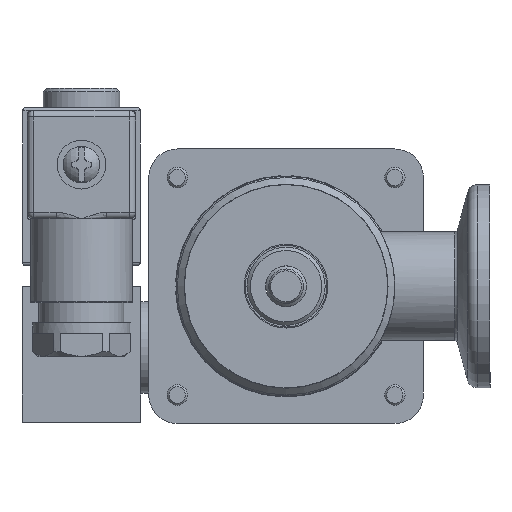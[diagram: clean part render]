
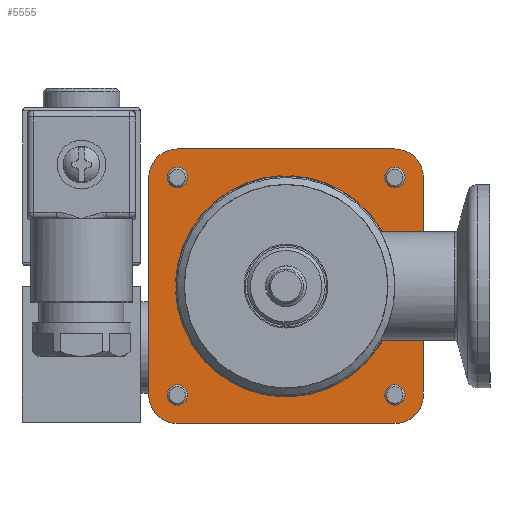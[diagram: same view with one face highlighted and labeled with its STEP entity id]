
A CAD part, front view. The second image highlights one B-rep face of the part: STEP entity #5555.
In plain terms, the highlighted planar face has unit normal (0, -1, 0) as drawn and (0, 1, 0) by its records, which use the part's own axes.
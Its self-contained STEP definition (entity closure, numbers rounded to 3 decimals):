
#2692=LINE('',#22524,#3665);
#2696=LINE('',#22533,#3669);
#2700=LINE('',#22545,#3673);
#2704=LINE('',#22554,#3677);
#2708=LINE('',#22566,#3681);
#2712=LINE('',#22575,#3685);
#2716=LINE('',#22587,#3689);
#2719=LINE('',#22603,#3692);
#2723=LINE('',#22613,#3696);
#2726=LINE('',#22621,#3699);
#2729=LINE('',#22629,#3702);
#2731=LINE('',#22634,#3704);
#3665=VECTOR('',#17649,1.);
#3669=VECTOR('',#17655,1.);
#3673=VECTOR('',#17667,1.);
#3677=VECTOR('',#17673,1.);
#3681=VECTOR('',#17685,1.);
#3685=VECTOR('',#17691,1.);
#3689=VECTOR('',#17703,1.);
#3692=VECTOR('',#17726,1.);
#3696=VECTOR('',#17736,1.);
#3699=VECTOR('',#17745,1.);
#3702=VECTOR('',#17754,1.);
#3704=VECTOR('',#17762,1.);
#4877=PLANE('',#14525);
#5555=ADVANCED_FACE('',(#6212,#6213,#6214,#6215,#6216,#6217),#4877,.T.);
#6212=FACE_BOUND('',#7180,.T.);
#6213=FACE_BOUND('',#7181,.T.);
#6214=FACE_BOUND('',#7182,.T.);
#6215=FACE_BOUND('',#7183,.T.);
#6216=FACE_BOUND('',#7184,.T.);
#6217=FACE_BOUND('',#7185,.T.);
#7180=EDGE_LOOP('',(#10224));
#7181=EDGE_LOOP('',(#10225));
#7182=EDGE_LOOP('',(#10226));
#7183=EDGE_LOOP('',(#10227));
#7184=EDGE_LOOP('',(#10228,#10229,#10230,#10231,#10232,#10233,#10234,#10235));
#7185=EDGE_LOOP('',(#10236,#10237,#10238,#10239,#10240,#10241,#10242,#10243,
#10244,#10245,#10246,#10247,#10248,#10249,#10250,#10251));
#10224=ORIENTED_EDGE('',*,*,#12924,.F.);
#10225=ORIENTED_EDGE('',*,*,#12925,.F.);
#10226=ORIENTED_EDGE('',*,*,#12926,.F.);
#10227=ORIENTED_EDGE('',*,*,#12927,.F.);
#10228=ORIENTED_EDGE('',*,*,#12907,.T.);
#10229=ORIENTED_EDGE('',*,*,#12910,.T.);
#10230=ORIENTED_EDGE('',*,*,#12912,.T.);
#10231=ORIENTED_EDGE('',*,*,#12914,.T.);
#10232=ORIENTED_EDGE('',*,*,#12916,.T.);
#10233=ORIENTED_EDGE('',*,*,#12918,.T.);
#10234=ORIENTED_EDGE('',*,*,#12920,.T.);
#10235=ORIENTED_EDGE('',*,*,#12921,.T.);
#10236=ORIENTED_EDGE('',*,*,#12863,.T.);
#10237=ORIENTED_EDGE('',*,*,#12866,.T.);
#10238=ORIENTED_EDGE('',*,*,#12905,.T.);
#10239=ORIENTED_EDGE('',*,*,#12870,.T.);
#10240=ORIENTED_EDGE('',*,*,#12873,.T.);
#10241=ORIENTED_EDGE('',*,*,#12876,.T.);
#10242=ORIENTED_EDGE('',*,*,#12903,.T.);
#10243=ORIENTED_EDGE('',*,*,#12880,.T.);
#10244=ORIENTED_EDGE('',*,*,#12883,.T.);
#10245=ORIENTED_EDGE('',*,*,#12886,.T.);
#10246=ORIENTED_EDGE('',*,*,#12901,.T.);
#10247=ORIENTED_EDGE('',*,*,#12890,.T.);
#10248=ORIENTED_EDGE('',*,*,#12893,.T.);
#10249=ORIENTED_EDGE('',*,*,#12896,.T.);
#10250=ORIENTED_EDGE('',*,*,#12899,.T.);
#10251=ORIENTED_EDGE('',*,*,#12923,.T.);
#11345=VERTEX_POINT('',#22512);
#11348=VERTEX_POINT('',#22517);
#11350=VERTEX_POINT('',#22523);
#11351=VERTEX_POINT('',#22527);
#11354=VERTEX_POINT('',#22532);
#11356=VERTEX_POINT('',#22538);
#11358=VERTEX_POINT('',#22544);
#11359=VERTEX_POINT('',#22548);
#11362=VERTEX_POINT('',#22553);
#11364=VERTEX_POINT('',#22559);
#11366=VERTEX_POINT('',#22565);
#11367=VERTEX_POINT('',#22569);
#11370=VERTEX_POINT('',#22574);
#11372=VERTEX_POINT('',#22580);
#11374=VERTEX_POINT('',#22586);
#11376=VERTEX_POINT('',#22592);
#11377=VERTEX_POINT('',#22602);
#11378=VERTEX_POINT('',#22604);
#11379=VERTEX_POINT('',#22608);
#11380=VERTEX_POINT('',#22612);
#11381=VERTEX_POINT('',#22616);
#11382=VERTEX_POINT('',#22620);
#11383=VERTEX_POINT('',#22624);
#11384=VERTEX_POINT('',#22628);
#11385=VERTEX_POINT('',#22637);
#11386=VERTEX_POINT('',#22639);
#11387=VERTEX_POINT('',#22641);
#11388=VERTEX_POINT('',#22643);
#12863=EDGE_CURVE('',#11345,#11348,#13381,.T.);
#12866=EDGE_CURVE('',#11348,#11350,#2692,.T.);
#12870=EDGE_CURVE('',#11351,#11354,#2696,.T.);
#12873=EDGE_CURVE('',#11354,#11356,#13383,.T.);
#12876=EDGE_CURVE('',#11356,#11358,#2700,.T.);
#12880=EDGE_CURVE('',#11359,#11362,#2704,.T.);
#12883=EDGE_CURVE('',#11362,#11364,#13385,.T.);
#12886=EDGE_CURVE('',#11364,#11366,#2708,.T.);
#12890=EDGE_CURVE('',#11367,#11370,#2712,.T.);
#12893=EDGE_CURVE('',#11370,#11372,#13387,.T.);
#12896=EDGE_CURVE('',#11372,#11374,#2716,.T.);
#12899=EDGE_CURVE('',#11374,#11376,#13389,.T.);
#12901=EDGE_CURVE('',#11366,#11367,#13391,.T.);
#12903=EDGE_CURVE('',#11358,#11359,#13393,.T.);
#12905=EDGE_CURVE('',#11350,#11351,#13395,.T.);
#12907=EDGE_CURVE('',#11378,#11377,#2719,.T.);
#12910=EDGE_CURVE('',#11377,#11379,#13396,.T.);
#12912=EDGE_CURVE('',#11379,#11380,#2723,.T.);
#12914=EDGE_CURVE('',#11380,#11381,#13397,.T.);
#12916=EDGE_CURVE('',#11381,#11382,#2726,.T.);
#12918=EDGE_CURVE('',#11382,#11383,#13398,.T.);
#12920=EDGE_CURVE('',#11383,#11384,#2729,.T.);
#12921=EDGE_CURVE('',#11384,#11378,#13399,.T.);
#12923=EDGE_CURVE('',#11376,#11345,#2731,.T.);
#12924=EDGE_CURVE('',#11385,#11385,#13400,.T.);
#12925=EDGE_CURVE('',#11386,#11386,#13401,.T.);
#12926=EDGE_CURVE('',#11387,#11387,#13402,.T.);
#12927=EDGE_CURVE('',#11388,#11388,#13403,.T.);
#13381=CIRCLE('',#14481,16.1);
#13383=CIRCLE('',#14486,16.1);
#13385=CIRCLE('',#14491,16.1);
#13387=CIRCLE('',#14496,16.1);
#13389=CIRCLE('',#14500,16.275);
#13391=CIRCLE('',#14502,16.275);
#13393=CIRCLE('',#14504,16.275);
#13395=CIRCLE('',#14506,16.275);
#13396=CIRCLE('',#14509,4.2);
#13397=CIRCLE('',#14512,4.2);
#13398=CIRCLE('',#14515,4.2);
#13399=CIRCLE('',#14518,4.2);
#13400=CIRCLE('',#14521,1.5);
#13401=CIRCLE('',#14522,1.5);
#13402=CIRCLE('',#14523,1.5);
#13403=CIRCLE('',#14524,1.5);
#14481=AXIS2_PLACEMENT_3D('',#22518,#17643,#17644);
#14486=AXIS2_PLACEMENT_3D('',#22539,#17661,#17662);
#14491=AXIS2_PLACEMENT_3D('',#22560,#17679,#17680);
#14496=AXIS2_PLACEMENT_3D('',#22581,#17697,#17698);
#14500=AXIS2_PLACEMENT_3D('',#22593,#17709,#17710);
#14502=AXIS2_PLACEMENT_3D('',#22595,#17713,#17714);
#14504=AXIS2_PLACEMENT_3D('',#22597,#17717,#17718);
#14506=AXIS2_PLACEMENT_3D('',#22599,#17721,#17722);
#14509=AXIS2_PLACEMENT_3D('',#22609,#17731,#17732);
#14512=AXIS2_PLACEMENT_3D('',#22617,#17740,#17741);
#14515=AXIS2_PLACEMENT_3D('',#22625,#17749,#17750);
#14518=AXIS2_PLACEMENT_3D('',#22631,#17757,#17758);
#14521=AXIS2_PLACEMENT_3D('',#22636,#17765,#17766);
#14522=AXIS2_PLACEMENT_3D('',#22638,#17767,#17768);
#14523=AXIS2_PLACEMENT_3D('',#22640,#17769,#17770);
#14524=AXIS2_PLACEMENT_3D('',#22642,#17771,#17772);
#14525=AXIS2_PLACEMENT_3D('',#22644,#17773,#17774);
#17643=DIRECTION('',(0.,-1.,0.));
#17644=DIRECTION('',(0.,0.,1.));
#17649=DIRECTION('',(0.,0.,1.));
#17655=DIRECTION('',(1.,0.,0.));
#17661=DIRECTION('',(0.,-1.,0.));
#17662=DIRECTION('',(0.,0.,1.));
#17667=DIRECTION('',(-1.,0.,0.));
#17673=DIRECTION('',(0.,0.,1.));
#17679=DIRECTION('',(0.,-1.,0.));
#17680=DIRECTION('',(0.,0.,1.));
#17685=DIRECTION('',(0.,0.,-1.));
#17691=DIRECTION('',(-1.,0.,0.));
#17697=DIRECTION('',(0.,-1.,0.));
#17698=DIRECTION('',(0.,0.,1.));
#17703=DIRECTION('',(1.,0.,0.));
#17709=DIRECTION('',(0.,-1.,0.));
#17710=DIRECTION('',(0.,0.,1.));
#17713=DIRECTION('',(0.,-1.,0.));
#17714=DIRECTION('',(0.,0.,1.));
#17717=DIRECTION('',(0.,-1.,0.));
#17718=DIRECTION('',(0.,0.,1.));
#17721=DIRECTION('',(0.,-1.,0.));
#17722=DIRECTION('',(0.,0.,1.));
#17726=DIRECTION('',(0.,0.,-1.));
#17731=DIRECTION('',(0.,1.,0.));
#17732=DIRECTION('',(1.,0.,0.));
#17736=DIRECTION('',(-1.,0.,0.));
#17740=DIRECTION('',(0.,1.,0.));
#17741=DIRECTION('',(0.,0.,-1.));
#17745=DIRECTION('',(0.,0.,1.));
#17749=DIRECTION('',(0.,1.,0.));
#17750=DIRECTION('',(-1.,0.,0.));
#17754=DIRECTION('',(1.,0.,0.));
#17757=DIRECTION('',(0.,1.,0.));
#17758=DIRECTION('',(0.,0.,1.));
#17762=DIRECTION('',(0.,0.,-1.));
#17765=DIRECTION('',(0.,1.,0.));
#17766=DIRECTION('',(-1.,0.,0.));
#17767=DIRECTION('',(0.,1.,0.));
#17768=DIRECTION('',(-1.,0.,0.));
#17769=DIRECTION('',(0.,1.,0.));
#17770=DIRECTION('',(-1.,0.,0.));
#17771=DIRECTION('',(0.,1.,0.));
#17772=DIRECTION('',(-1.,0.,0.));
#17773=DIRECTION('',(0.,1.,0.));
#17774=DIRECTION('',(0.,0.,1.));
#22512=CARTESIAN_POINT('',(0.75,6.,16.083));
#22517=CARTESIAN_POINT('',(-0.75,6.,16.083));
#22518=CARTESIAN_POINT('',(0.,6.,0.));
#22523=CARTESIAN_POINT('',(-0.75,6.,16.258));
#22524=CARTESIAN_POINT('',(-0.75,6.,16.083));
#22527=CARTESIAN_POINT('',(-16.258,6.,0.75));
#22532=CARTESIAN_POINT('',(-16.083,6.,0.75));
#22533=CARTESIAN_POINT('',(-16.258,6.,0.75));
#22538=CARTESIAN_POINT('',(-16.083,6.,-0.75));
#22539=CARTESIAN_POINT('',(0.,6.,0.));
#22544=CARTESIAN_POINT('',(-16.258,6.,-0.75));
#22545=CARTESIAN_POINT('',(-16.083,6.,-0.75));
#22548=CARTESIAN_POINT('',(-0.75,6.,-16.258));
#22553=CARTESIAN_POINT('',(-0.75,6.,-16.083));
#22554=CARTESIAN_POINT('',(-0.75,6.,-16.258));
#22559=CARTESIAN_POINT('',(0.75,6.,-16.083));
#22560=CARTESIAN_POINT('',(0.,6.,0.));
#22565=CARTESIAN_POINT('',(0.75,6.,-16.258));
#22566=CARTESIAN_POINT('',(0.75,6.,-16.083));
#22569=CARTESIAN_POINT('',(16.258,6.,-0.75));
#22574=CARTESIAN_POINT('',(16.083,6.,-0.75));
#22575=CARTESIAN_POINT('',(16.258,6.,-0.75));
#22580=CARTESIAN_POINT('',(16.083,6.,0.75));
#22581=CARTESIAN_POINT('',(0.,6.,0.));
#22586=CARTESIAN_POINT('',(16.258,6.,0.75));
#22587=CARTESIAN_POINT('',(16.083,6.,0.75));
#22592=CARTESIAN_POINT('',(0.75,6.,16.258));
#22593=CARTESIAN_POINT('',(0.,6.,0.));
#22595=CARTESIAN_POINT('',(0.,6.,0.));
#22597=CARTESIAN_POINT('',(0.,6.,0.));
#22599=CARTESIAN_POINT('',(0.,6.,0.));
#22602=CARTESIAN_POINT('',(20.2,6.,-16.));
#22603=CARTESIAN_POINT('',(20.2,6.,16.));
#22604=CARTESIAN_POINT('',(20.2,6.,16.));
#22608=CARTESIAN_POINT('',(16.,6.,-20.2));
#22609=CARTESIAN_POINT('',(16.,6.,-16.));
#22612=CARTESIAN_POINT('',(-16.,6.,-20.2));
#22613=CARTESIAN_POINT('',(16.,6.,-20.2));
#22616=CARTESIAN_POINT('',(-20.2,6.,-16.));
#22617=CARTESIAN_POINT('',(-16.,6.,-16.));
#22620=CARTESIAN_POINT('',(-20.2,6.,16.));
#22621=CARTESIAN_POINT('',(-20.2,6.,-16.));
#22624=CARTESIAN_POINT('',(-16.,6.,20.2));
#22625=CARTESIAN_POINT('',(-16.,6.,16.));
#22628=CARTESIAN_POINT('',(16.,6.,20.2));
#22629=CARTESIAN_POINT('',(-16.,6.,20.2));
#22631=CARTESIAN_POINT('',(16.,6.,16.));
#22634=CARTESIAN_POINT('',(0.75,6.,16.258));
#22636=CARTESIAN_POINT('',(-16.,6.,16.));
#22637=CARTESIAN_POINT('',(-17.5,6.,16.));
#22638=CARTESIAN_POINT('',(16.,6.,-16.));
#22639=CARTESIAN_POINT('',(14.5,6.,-16.));
#22640=CARTESIAN_POINT('',(-16.,6.,-16.));
#22641=CARTESIAN_POINT('',(-17.5,6.,-16.));
#22642=CARTESIAN_POINT('',(16.,6.,16.));
#22643=CARTESIAN_POINT('',(14.5,6.,16.));
#22644=CARTESIAN_POINT('',(16.,6.,-16.));
